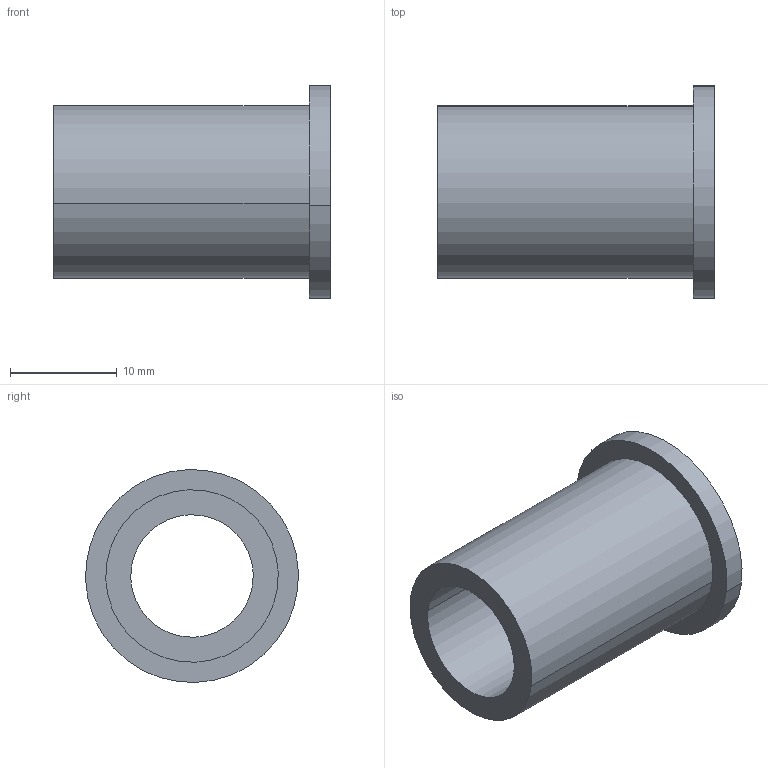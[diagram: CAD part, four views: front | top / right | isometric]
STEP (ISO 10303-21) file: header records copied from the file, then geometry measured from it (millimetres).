
FILE_DESCRIPTION(('Creo Elements/Direct Modeling STEP Export'),'2;1');
FILE_NAME('H07-0015-CL901-01_G22-16B.stp','2012-09-28T13:52:57',(''),(''),'Creo Elements/Direct Modeling STEP processor for AP214 (Solid Model)','Creo Elements/Direct Modeling 18.0B 02-Dec-2011 (C) Parametric Technology GmbH','');
FILE_SCHEMA(('AUTOMOTIVE_DESIGN { 1 0 10303 214 1 1 1 1 }'));
Length unit declared in the file: millimetre
Products named in the file (2): G22-16B
Assembly tree (1 placements, depth 2):
  G22-16B
    G22-16B
Bounding box: 26 x 19.98 x 19.98 mm (x, y, z)
Volume: 2874.6 mm3; surface area: 2707 mm2
Topology: 1 solids, 1 shells, 9 faces, 18 edges, 12 vertices
Faces by surface type: cylinder 6, plane 3
Entity records: 263 total; most frequent: DIRECTION 40, ORIENTED_EDGE 36, CARTESIAN_POINT 35, EDGE_CURVE 18, AXIS2_PLACEMENT_3D 17, VERTEX_POINT 12, EDGE_LOOP 12, FACE_OUTER_BOUND 9
